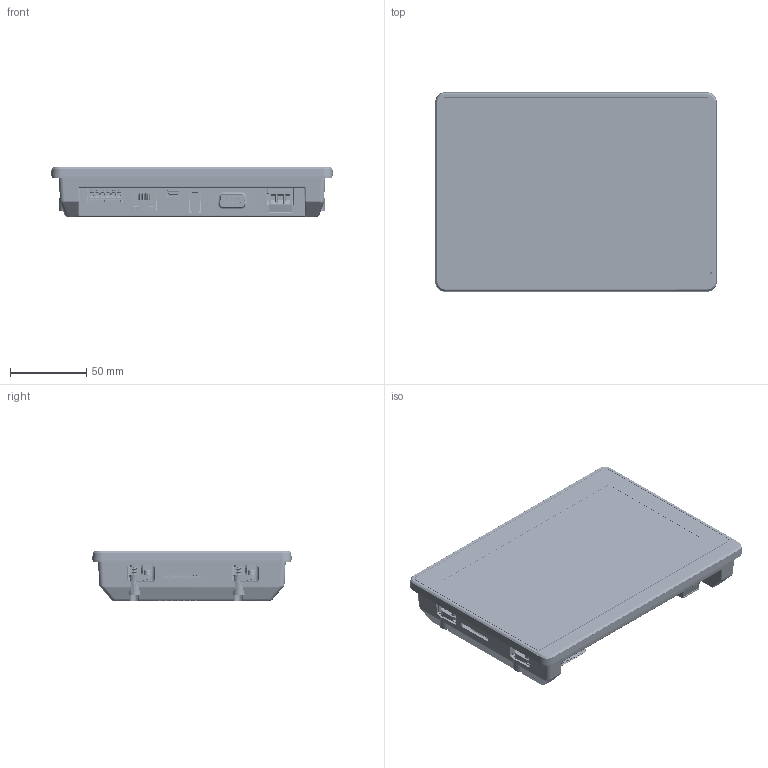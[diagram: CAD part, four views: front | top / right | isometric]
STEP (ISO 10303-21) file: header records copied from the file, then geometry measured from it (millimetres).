
FILE_DESCRIPTION((''),'2;1');
FILE_NAME('F007N_ASM','2020-12-11T14:57:15',('weixf_pc'),(''),'CREO PARAMETRIC BY PTC INC, 2016510','CREO PARAMETRIC BY PTC INC, 2016510','');
FILE_SCHEMA(('CONFIG_CONTROL_DESIGN'));
Products named in the file (5): F007N; USB_A-USB_A-E_LP; USB-TYPE-C_STP; YABAN; F007N_ASM
Assembly tree (7 placements, depth 2):
  F007N_ASM
    F007N
    USB_A-USB_A-E_LP
    USB-TYPE-C_STP
    YABAN  x4
Bounding box: 185 x 131 x 32.6 mm (x, y, z)
Volume: 172172.2 mm3; surface area: 203429.8 mm2
Topology: 12 solids, 20 shells, 5563 faces, 15718 edges, 10258 vertices
Faces by surface type: plane 3173, cylinder 1527, bspline 331, cone 280, torus 232, extrusion 14, sphere 6
Entity records: 231477 total; most frequent: CARTESIAN_POINT 93611, ORIENTED_EDGE 30432, DIRECTION 26619, EDGE_CURVE 15216, VECTOR 9961, LINE 9947, VERTEX_POINT 9938, AXIS2_PLACEMENT_3D 8329
